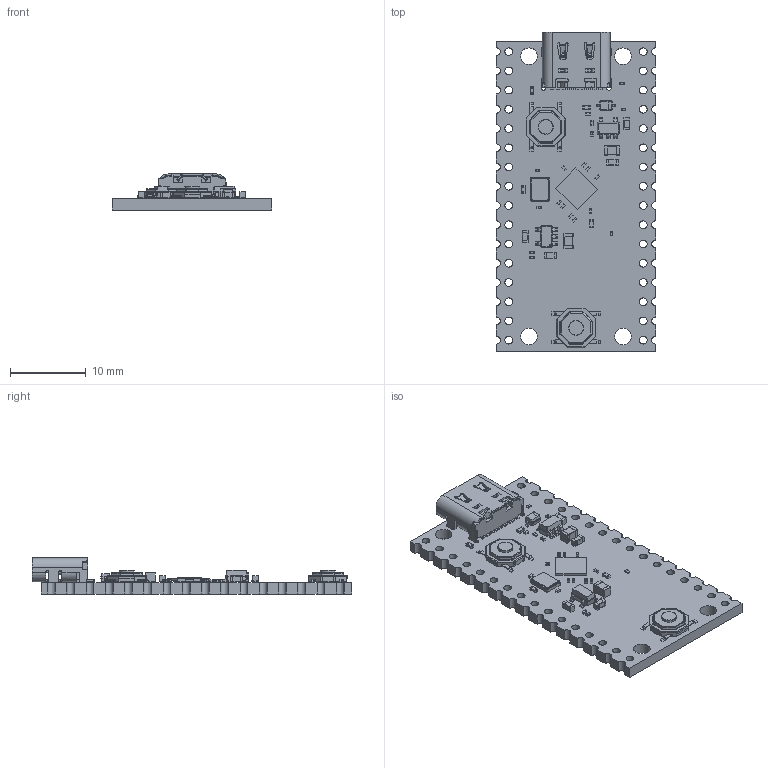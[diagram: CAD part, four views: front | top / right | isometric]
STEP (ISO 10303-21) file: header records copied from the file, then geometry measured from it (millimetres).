
FILE_DESCRIPTION(('KiCad electronic assembly'),'2;1');
FILE_NAME('dabao_v3c.step','2025-11-11T07:37:33',('Pcbnew'),('Kicad'), 'Open CASCADE STEP processor 7.9','KiCad to STEP converter','Unknown' );
FILE_SCHEMA(('AUTOMOTIVE_DESIGN { 1 0 10303 214 1 1 1 1 }'));
Length unit declared in the file: millimetre
Products named in the file (13): dabao_v3c 1; L_0805_2012Metric; C_0201_0603Metric; R_0201_0603Metric; R_0402_1005Metric; 12402012E212A; C_0603_1608Metric; D_SOD-323; SW_SPST_TL3342; baochip0-es; Crystal_SMD_3225-4Pin_3.2x2.5mm; SOT-23-5; dabao_v3c_PCB
Assembly tree (38 placements, depth 2):
  dabao_v3c 1
    L_0805_2012Metric  x2
    C_0201_0603Metric  x12
    R_0201_0603Metric  x7
    R_0402_1005Metric  x4
    12402012E212A
    C_0603_1608Metric  x4
    D_SOD-323
    SW_SPST_TL3342  x2
    baochip0-es
    Crystal_SMD_3225-4Pin_3.2x2.5mm
    SOT-23-5  x2
    dabao_v3c_PCB
Bounding box: 21 x 42.19 x 4.77 mm (x, y, z)
Volume: 1410.2 mm3; surface area: 2915.4 mm2
Topology: 110 solids, 112 shells, 2550 faces, 7039 edges, 4596 vertices
Faces by surface type: plane 1544, cylinder 724, sphere 144, bspline 94, cone 34, torus 10
Full cylindrical faces by diameter (mm): 0.6 x2, 1.02 x32, 2 x2, 2.2 x4
Entity records: 60877 total; most frequent: CARTESIAN_POINT 11933, ORIENTED_EDGE 8832, DIRECTION 8309, EDGE_CURVE 4416, VERTEX_POINT 2974, LINE 2953, VECTOR 2953, AXIS2_PLACEMENT_3D 2678
